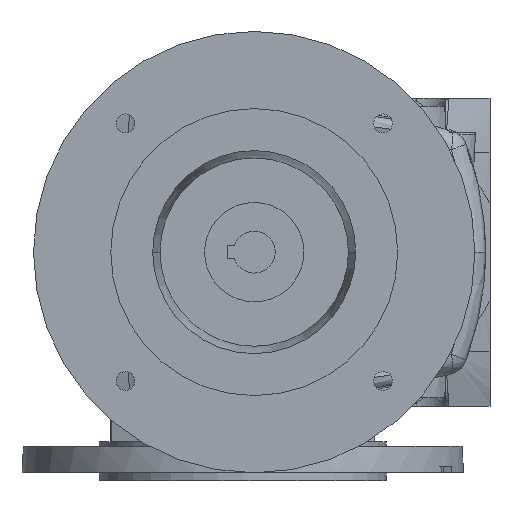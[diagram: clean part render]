
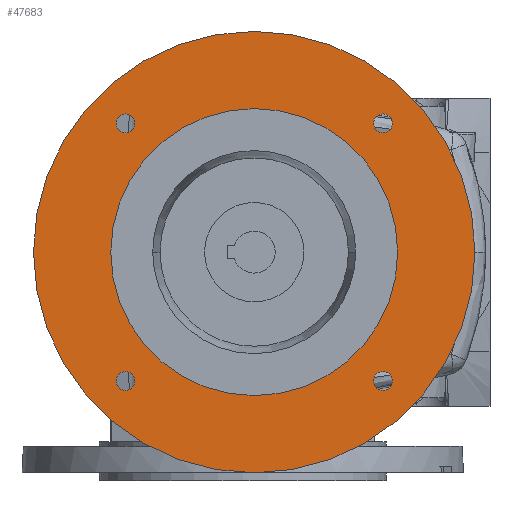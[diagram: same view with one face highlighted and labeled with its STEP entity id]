
A CAD part, left-side view. The second image highlights one B-rep face of the part: STEP entity #47683.
In plain terms, the highlighted planar face has unit normal (-1, 0, 0).
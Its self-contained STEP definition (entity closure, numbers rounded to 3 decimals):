
#47133=CARTESIAN_POINT('',(-146.5,43.164,-58.336));
#47134=DIRECTION('',(1.,0.,0.));
#47135=DIRECTION('',(0.,-1.,0.));
#47136=AXIS2_PLACEMENT_3D('',#47133,#47134,#47135);
#47138=CARTESIAN_POINT('',(-146.5,43.164,-58.336));
#47139=DIRECTION('',(1.,0.,0.));
#47140=DIRECTION('',(0.,1.,0.));
#47141=AXIS2_PLACEMENT_3D('',#47138,#47139,#47140);
#47143=CARTESIAN_POINT('',(-146.5,43.164,58.336));
#47144=DIRECTION('',(1.,0.,0.));
#47145=DIRECTION('',(0.,-1.,0.));
#47146=AXIS2_PLACEMENT_3D('',#47143,#47144,#47145);
#47148=CARTESIAN_POINT('',(-146.5,43.164,58.336));
#47149=DIRECTION('',(1.,0.,0.));
#47150=DIRECTION('',(0.,1.,0.));
#47151=AXIS2_PLACEMENT_3D('',#47148,#47149,#47150);
#47153=CARTESIAN_POINT('',(-146.5,159.836,58.336));
#47154=DIRECTION('',(1.,0.,0.));
#47155=DIRECTION('',(0.,-1.,0.));
#47156=AXIS2_PLACEMENT_3D('',#47153,#47154,#47155);
#47158=CARTESIAN_POINT('',(-146.5,159.836,58.336));
#47159=DIRECTION('',(1.,0.,0.));
#47160=DIRECTION('',(0.,1.,0.));
#47161=AXIS2_PLACEMENT_3D('',#47158,#47159,#47160);
#47163=CARTESIAN_POINT('',(-146.5,159.836,-58.336));
#47164=DIRECTION('',(1.,0.,0.));
#47165=DIRECTION('',(0.,-1.,0.));
#47166=AXIS2_PLACEMENT_3D('',#47163,#47164,#47165);
#47168=CARTESIAN_POINT('',(-146.5,159.836,-58.336));
#47169=DIRECTION('',(1.,0.,0.));
#47170=DIRECTION('',(0.,1.,0.));
#47171=AXIS2_PLACEMENT_3D('',#47168,#47169,#47170);
#47173=CARTESIAN_POINT('',(-146.5,101.5,0.));
#47174=DIRECTION('',(-1.,0.,0.));
#47175=DIRECTION('',(0.,0.,-1.));
#47176=AXIS2_PLACEMENT_3D('',#47173,#47174,#47175);
#47178=CARTESIAN_POINT('',(-146.5,101.5,0.));
#47179=DIRECTION('',(-1.,0.,0.));
#47180=DIRECTION('',(0.,0.,1.));
#47181=AXIS2_PLACEMENT_3D('',#47178,#47179,#47180);
#47183=CARTESIAN_POINT('',(-146.5,101.5,0.));
#47184=DIRECTION('',(1.,0.,0.));
#47185=DIRECTION('',(0.,0.,-1.));
#47186=AXIS2_PLACEMENT_3D('',#47183,#47184,#47185);
#47188=CARTESIAN_POINT('',(-146.5,101.5,0.));
#47189=DIRECTION('',(1.,0.,0.));
#47190=DIRECTION('',(0.,0.,1.));
#47191=AXIS2_PLACEMENT_3D('',#47188,#47189,#47190);
#47414=CARTESIAN_POINT('',(-146.5,101.5,-99.986));
#47415=CARTESIAN_POINT('',(-146.5,101.5,99.986));
#47416=VERTEX_POINT('',#47414);
#47417=VERTEX_POINT('',#47415);
#47418=CARTESIAN_POINT('',(-146.5,101.5,-65.));
#47419=CARTESIAN_POINT('',(-146.5,101.5,65.));
#47420=VERTEX_POINT('',#47418);
#47421=VERTEX_POINT('',#47419);
#47422=CARTESIAN_POINT('',(-146.5,155.586,58.336));
#47423=CARTESIAN_POINT('',(-146.5,164.086,58.336));
#47424=VERTEX_POINT('',#47422);
#47425=VERTEX_POINT('',#47423);
#47426=CARTESIAN_POINT('',(-146.5,38.914,58.336));
#47427=CARTESIAN_POINT('',(-146.5,47.414,58.336));
#47428=VERTEX_POINT('',#47426);
#47429=VERTEX_POINT('',#47427);
#47430=CARTESIAN_POINT('',(-146.5,155.586,-58.336));
#47431=CARTESIAN_POINT('',(-146.5,164.086,-58.336));
#47432=VERTEX_POINT('',#47430);
#47433=VERTEX_POINT('',#47431);
#47434=CARTESIAN_POINT('',(-146.5,38.914,-58.336));
#47435=CARTESIAN_POINT('',(-146.5,47.414,-58.336));
#47436=VERTEX_POINT('',#47434);
#47437=VERTEX_POINT('',#47435);
#47643=CARTESIAN_POINT('',(-146.5,101.5,0.));
#47644=DIRECTION('',(1.,0.,0.));
#47645=DIRECTION('',(0.,0.,-1.));
#47646=AXIS2_PLACEMENT_3D('',#47643,#47644,#47645);
#47647=PLANE('',#47646);
#47649=ORIENTED_EDGE('',*,*,#47648,.F.);
#47651=ORIENTED_EDGE('',*,*,#47650,.F.);
#47652=EDGE_LOOP('',(#47649,#47651));
#47653=FACE_OUTER_BOUND('',#47652,.F.);
#47654=ORIENTED_EDGE('',*,*,#47633,.F.);
#47656=ORIENTED_EDGE('',*,*,#47655,.F.);
#47657=EDGE_LOOP('',(#47654,#47656));
#47658=FACE_BOUND('',#47657,.F.);
#47660=ORIENTED_EDGE('',*,*,#47659,.F.);
#47662=ORIENTED_EDGE('',*,*,#47661,.F.);
#47663=EDGE_LOOP('',(#47660,#47662));
#47664=FACE_BOUND('',#47663,.F.);
#47666=ORIENTED_EDGE('',*,*,#47665,.F.);
#47668=ORIENTED_EDGE('',*,*,#47667,.F.);
#47669=EDGE_LOOP('',(#47666,#47668));
#47670=FACE_BOUND('',#47669,.F.);
#47672=ORIENTED_EDGE('',*,*,#47671,.F.);
#47674=ORIENTED_EDGE('',*,*,#47673,.F.);
#47675=EDGE_LOOP('',(#47672,#47674));
#47676=FACE_BOUND('',#47675,.F.);
#47678=ORIENTED_EDGE('',*,*,#47677,.F.);
#47680=ORIENTED_EDGE('',*,*,#47679,.F.);
#47681=EDGE_LOOP('',(#47678,#47680));
#47682=FACE_BOUND('',#47681,.F.);
#47683=ADVANCED_FACE('',(#47653,#47658,#47664,#47670,#47676,#47682),#47647,.F.);
#47137=CIRCLE('',#47136,4.25);
#47142=CIRCLE('',#47141,4.25);
#47147=CIRCLE('',#47146,4.25);
#47152=CIRCLE('',#47151,4.25);
#47157=CIRCLE('',#47156,4.25);
#47162=CIRCLE('',#47161,4.25);
#47167=CIRCLE('',#47166,4.25);
#47172=CIRCLE('',#47171,4.25);
#47177=CIRCLE('',#47176,99.986);
#47182=CIRCLE('',#47181,99.986);
#47187=CIRCLE('',#47186,65.);
#47192=CIRCLE('',#47191,65.);
#47633=EDGE_CURVE('',#47436,#47437,#47137,.T.);
#47648=EDGE_CURVE('',#47416,#47417,#47177,.T.);
#47650=EDGE_CURVE('',#47417,#47416,#47182,.T.);
#47655=EDGE_CURVE('',#47437,#47436,#47142,.T.);
#47659=EDGE_CURVE('',#47428,#47429,#47147,.T.);
#47661=EDGE_CURVE('',#47429,#47428,#47152,.T.);
#47665=EDGE_CURVE('',#47424,#47425,#47157,.T.);
#47667=EDGE_CURVE('',#47425,#47424,#47162,.T.);
#47671=EDGE_CURVE('',#47432,#47433,#47167,.T.);
#47673=EDGE_CURVE('',#47433,#47432,#47172,.T.);
#47677=EDGE_CURVE('',#47420,#47421,#47187,.T.);
#47679=EDGE_CURVE('',#47421,#47420,#47192,.T.);
